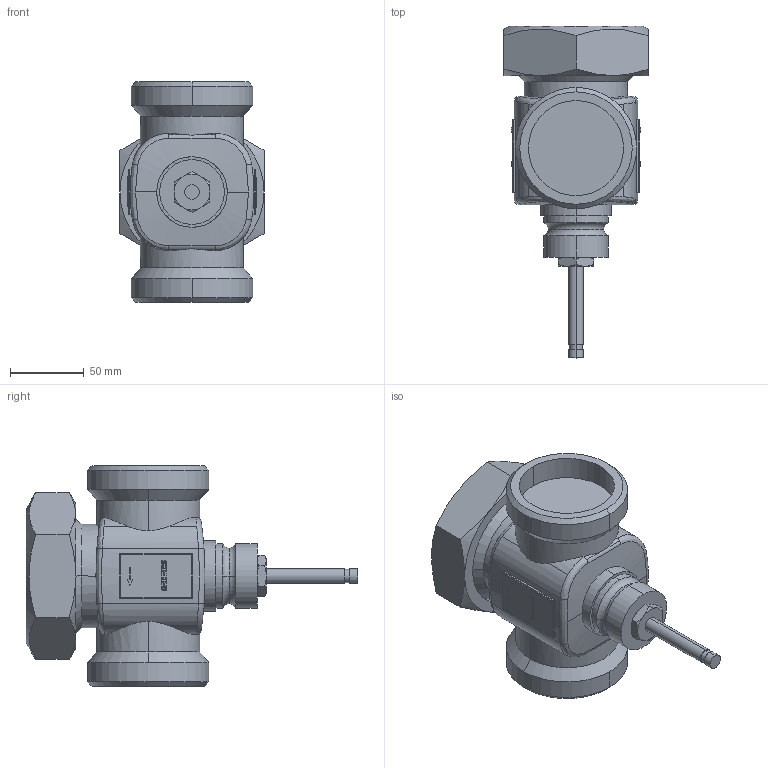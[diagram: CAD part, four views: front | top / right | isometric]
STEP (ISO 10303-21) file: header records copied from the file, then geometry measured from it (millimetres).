
FILE_DESCRIPTION((''),'2;1');
FILE_NAME('000155.stp','2006-09-29T17:18:42',(''),(''),'Mechanical Desktop 2006','Mechanical Desktop 2006',', , ');
FILE_SCHEMA(('AUTOMOTIVE_DESIGN { 1 2 10303 214 0 1 1 1 }'));
Length unit declared in the file: millimetre
Products named in the file (1): Product
Bounding box: 97.93 x 225.5 x 150 mm (x, y, z)
Volume: 1008396.3 mm3; surface area: 134656.1 mm2
Topology: 26 solids, 26 shells, 539 faces, 1402 edges, 912 vertices
Faces by surface type: cylinder 249, plane 199, bspline 71, cone 8, sphere 8, torus 4
Entity records: 18926 total; most frequent: CARTESIAN_POINT 5743, ORIENTED_EDGE 2788, DIRECTION 2710, EDGE_CURVE 1394, AXIS2_PLACEMENT_3D 977, VERTEX_POINT 912, VECTOR 756, LINE 756
